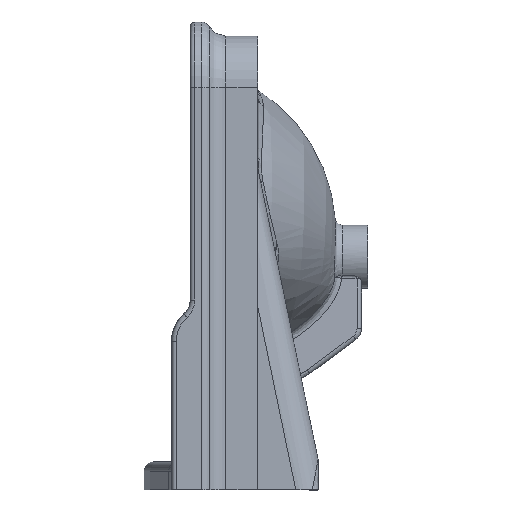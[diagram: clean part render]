
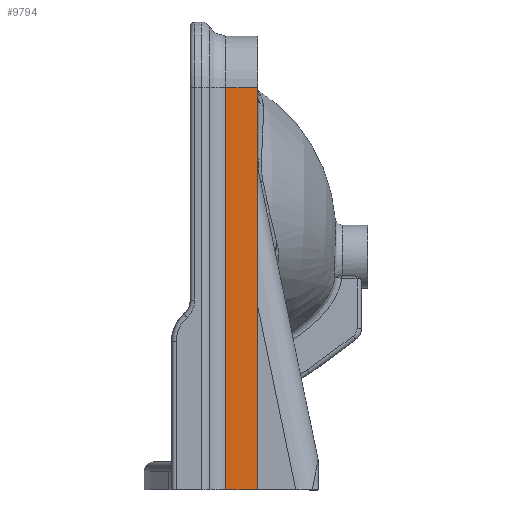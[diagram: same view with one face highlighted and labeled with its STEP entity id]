
A CAD part, left-side view. The second image highlights one B-rep face of the part: STEP entity #9794.
In plain terms, the highlighted planar face has unit normal (-1, 0, 0).
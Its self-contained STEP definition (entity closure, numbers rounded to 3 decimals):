
#495 = VECTOR ( 'NONE', #5588, 1000. ) ;
#1561 = EDGE_CURVE ( 'NONE', #4098, #8375, #4887, .T. ) ;
#4098 = VERTEX_POINT ( 'NONE', #17624 ) ;
#4531 = VERTEX_POINT ( 'NONE', #28917 ) ;
#4887 = LINE ( 'NONE', #10936, #31607 ) ;
#5588 = DIRECTION ( 'NONE',  ( 0., 0., -1. ) ) ;
#5990 = ORIENTED_EDGE ( 'NONE', *, *, #10566, .T. ) ;
#6975 = FACE_OUTER_BOUND ( 'NONE', #13909, .T. ) ;
#8375 = VERTEX_POINT ( 'NONE', #16229 ) ;
#9241 = VERTEX_POINT ( 'NONE', #11522 ) ;
#9685 = CARTESIAN_POINT ( 'NONE',  ( 2617.826, 2437.973, -25.215 ) ) ;
#9794 = ADVANCED_FACE ( 'NONE', ( #6975 ), #18688, .F. ) ;
#10566 = EDGE_CURVE ( 'NONE', #8375, #9241, #25443, .T. ) ;
#10936 = CARTESIAN_POINT ( 'NONE',  ( 2617.826, 2437.973, -25.215 ) ) ;
#11346 = AXIS2_PLACEMENT_3D ( 'NONE', #27209, #35686, #33038 ) ;
#11522 = CARTESIAN_POINT ( 'NONE',  ( 2617.826, 2471.992, -455.215 ) ) ;
#12117 = ORIENTED_EDGE ( 'NONE', *, *, #19751, .F. ) ;
#12351 = EDGE_CURVE ( 'NONE', #4098, #4531, #12515, .T. ) ;
#12515 = LINE ( 'NONE', #9685, #24718 ) ;
#13548 = CARTESIAN_POINT ( 'NONE',  ( 2617.826, 2471.992, -25.215 ) ) ;
#13909 = EDGE_LOOP ( 'NONE', ( #26621, #5990, #12117, #32006 ) ) ;
#16229 = CARTESIAN_POINT ( 'NONE',  ( 2617.826, 2471.992, -25.215 ) ) ;
#16430 = DIRECTION ( 'NONE',  ( 0., 1., 0. ) ) ;
#17624 = CARTESIAN_POINT ( 'NONE',  ( 2617.826, 2437.973, -25.215 ) ) ;
#18688 = PLANE ( 'NONE',  #11346 ) ;
#19751 = EDGE_CURVE ( 'NONE', #4531, #9241, #20622, .T. ) ;
#20622 = LINE ( 'NONE', #28949, #35265 ) ;
#24718 = VECTOR ( 'NONE', #29906, 1000. ) ;
#25443 = LINE ( 'NONE', #13548, #495 ) ;
#26621 = ORIENTED_EDGE ( 'NONE', *, *, #1561, .T. ) ;
#27209 = CARTESIAN_POINT ( 'NONE',  ( 2617.826, 2437.973, -25.215 ) ) ;
#28917 = CARTESIAN_POINT ( 'NONE',  ( 2617.826, 2437.973, -455.215 ) ) ;
#28949 = CARTESIAN_POINT ( 'NONE',  ( 2617.826, 2437.973, -455.215 ) ) ;
#29906 = DIRECTION ( 'NONE',  ( 0., 0., -1. ) ) ;
#31607 = VECTOR ( 'NONE', #16430, 1000. ) ;
#32006 = ORIENTED_EDGE ( 'NONE', *, *, #12351, .F. ) ;
#32520 = DIRECTION ( 'NONE',  ( 0., 1., 0. ) ) ;
#33038 = DIRECTION ( 'NONE',  ( 0., 0., -1. ) ) ;
#35265 = VECTOR ( 'NONE', #32520, 1000. ) ;
#35686 = DIRECTION ( 'NONE',  ( 1., 0., 0. ) ) ;
